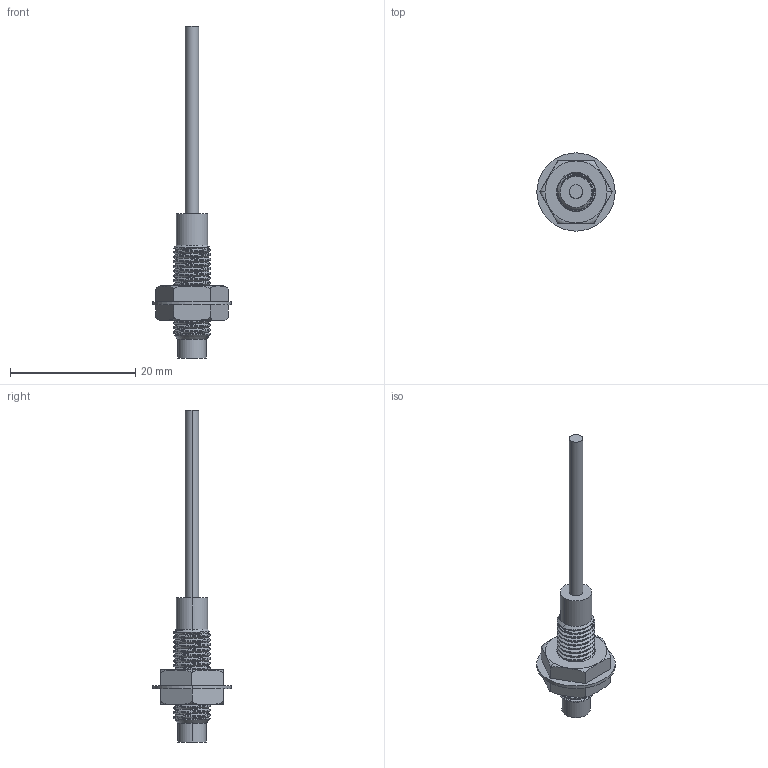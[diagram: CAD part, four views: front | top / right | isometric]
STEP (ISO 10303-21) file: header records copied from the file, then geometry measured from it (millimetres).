
FILE_DESCRIPTION (( 'STEP AP203' ), '1' );
FILE_NAME ('FDT-610_T.STEP', '2020-11-04T10:14:08', ( '' ), ( '' ), 'SwSTEP 2.0', 'SolidWorks 2020', '' );
FILE_SCHEMA (( 'CONFIG_CONTROL_DESIGN' ));
Length unit declared in the file: millimetre
Products named in the file (4): FDT-610_T; M6蹟譫x2.5.5.5; M6菜えx1x1x1
Assembly tree (4 placements, depth 2):
  FDT-610_T
    FDT-610_T
    M6菜えx1x1x1
    M6蹟譫x2.5.5.5  x2
Bounding box: 12.5 x 12.5 x 53 mm (x, y, z)
Volume: 978 mm3; surface area: 1531.6 mm2
Topology: 4 solids, 4 shells, 117 faces, 305 edges, 199 vertices
Faces by surface type: cylinder 64, plane 23, cone 17, bspline 9, torus 4
Entity records: 8723 total; most frequent: CARTESIAN_POINT 6319, ORIENTED_EDGE 480, DIRECTION 351, EDGE_CURVE 240, VERTEX_POINT 157, AXIS2_PLACEMENT_3D 136, EDGE_LOOP 99, ADVANCED_FACE 92
